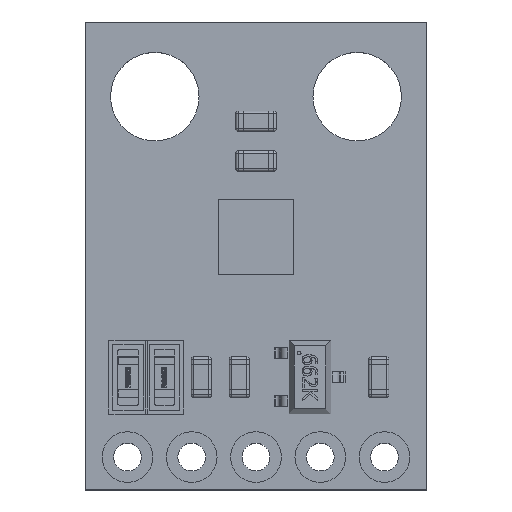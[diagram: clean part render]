
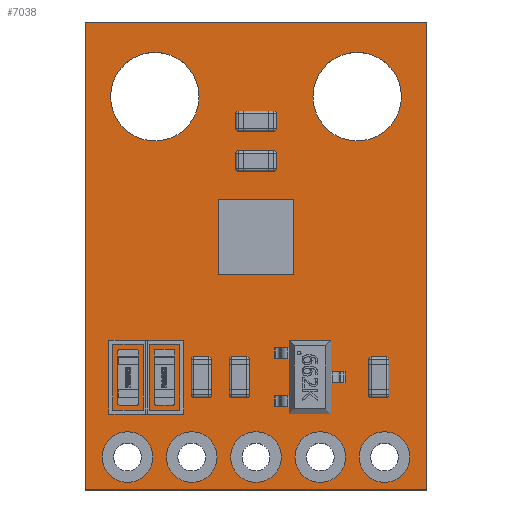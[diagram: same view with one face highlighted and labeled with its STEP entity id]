
A CAD part, top view. The second image highlights one B-rep face of the part: STEP entity #7038.
In plain terms, the highlighted planar face has unit normal (0, 0, 1).
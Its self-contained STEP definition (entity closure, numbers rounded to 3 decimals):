
#184=FACE_BOUND('',#1454,.T.);
#185=FACE_BOUND('',#1455,.T.);
#186=FACE_BOUND('',#1456,.T.);
#187=FACE_BOUND('',#1457,.T.);
#188=FACE_BOUND('',#1458,.T.);
#189=FACE_BOUND('',#1459,.T.);
#190=FACE_BOUND('',#1460,.T.);
#642=PLANE('',#7510);
#1034=FACE_OUTER_BOUND('',#1453,.T.);
#1453=EDGE_LOOP('',(#6150,#6151,#6152,#6153));
#1454=EDGE_LOOP('',(#6154));
#1455=EDGE_LOOP('',(#6155));
#1456=EDGE_LOOP('',(#6156));
#1457=EDGE_LOOP('',(#6157));
#1458=EDGE_LOOP('',(#6158));
#1459=EDGE_LOOP('',(#6159));
#1460=EDGE_LOOP('',(#6160));
#1612=CIRCLE('',#7487,1.);
#1614=CIRCLE('',#7490,1.75);
#1616=CIRCLE('',#7493,1.);
#1618=CIRCLE('',#7496,1.);
#1620=CIRCLE('',#7499,1.75);
#1622=CIRCLE('',#7502,1.);
#1624=CIRCLE('',#7505,1.);
#2184=LINE('',#15129,#2757);
#2188=LINE('',#15137,#2761);
#2191=LINE('',#15143,#2764);
#2194=LINE('',#15148,#2767);
#2757=VECTOR('',#8879,10.);
#2761=VECTOR('',#8885,10.);
#2764=VECTOR('',#8890,10.);
#2767=VECTOR('',#8895,10.);
#3348=VERTEX_POINT('',#15087);
#3350=VERTEX_POINT('',#15093);
#3352=VERTEX_POINT('',#15099);
#3354=VERTEX_POINT('',#15105);
#3356=VERTEX_POINT('',#15111);
#3358=VERTEX_POINT('',#15117);
#3360=VERTEX_POINT('',#15123);
#3361=VERTEX_POINT('',#15127);
#3362=VERTEX_POINT('',#15128);
#3365=VERTEX_POINT('',#15136);
#3367=VERTEX_POINT('',#15142);
#4277=EDGE_CURVE('',#3348,#3348,#1612,.T.);
#4280=EDGE_CURVE('',#3350,#3350,#1614,.T.);
#4283=EDGE_CURVE('',#3352,#3352,#1616,.T.);
#4286=EDGE_CURVE('',#3354,#3354,#1618,.T.);
#4289=EDGE_CURVE('',#3356,#3356,#1620,.T.);
#4292=EDGE_CURVE('',#3358,#3358,#1622,.T.);
#4295=EDGE_CURVE('',#3360,#3360,#1624,.T.);
#4296=EDGE_CURVE('',#3361,#3362,#2184,.T.);
#4300=EDGE_CURVE('',#3365,#3361,#2188,.T.);
#4303=EDGE_CURVE('',#3367,#3365,#2191,.T.);
#4306=EDGE_CURVE('',#3362,#3367,#2194,.T.);
#6150=ORIENTED_EDGE('',*,*,#4306,.F.);
#6151=ORIENTED_EDGE('',*,*,#4296,.F.);
#6152=ORIENTED_EDGE('',*,*,#4300,.F.);
#6153=ORIENTED_EDGE('',*,*,#4303,.F.);
#6154=ORIENTED_EDGE('',*,*,#4295,.T.);
#6155=ORIENTED_EDGE('',*,*,#4292,.T.);
#6156=ORIENTED_EDGE('',*,*,#4289,.T.);
#6157=ORIENTED_EDGE('',*,*,#4286,.T.);
#6158=ORIENTED_EDGE('',*,*,#4283,.T.);
#6159=ORIENTED_EDGE('',*,*,#4280,.T.);
#6160=ORIENTED_EDGE('',*,*,#4277,.T.);
#7038=ADVANCED_FACE('',(#1034,#184,#185,#186,#187,#188,#189,#190),#642,
 .T.);
#7487=AXIS2_PLACEMENT_3D('',#15089,#8833,#8834);
#7490=AXIS2_PLACEMENT_3D('',#15095,#8840,#8841);
#7493=AXIS2_PLACEMENT_3D('',#15101,#8847,#8848);
#7496=AXIS2_PLACEMENT_3D('',#15107,#8854,#8855);
#7499=AXIS2_PLACEMENT_3D('',#15113,#8861,#8862);
#7502=AXIS2_PLACEMENT_3D('',#15119,#8868,#8869);
#7505=AXIS2_PLACEMENT_3D('',#15125,#8875,#8876);
#7510=AXIS2_PLACEMENT_3D('',#15150,#8897,#8898);
#8833=DIRECTION('center_axis',(0.,0.,-1.));
#8834=DIRECTION('ref_axis',(1.,0.,0.));
#8840=DIRECTION('center_axis',(0.,0.,-1.));
#8841=DIRECTION('ref_axis',(1.,0.,0.));
#8847=DIRECTION('center_axis',(0.,0.,-1.));
#8848=DIRECTION('ref_axis',(1.,0.,0.));
#8854=DIRECTION('center_axis',(0.,0.,-1.));
#8855=DIRECTION('ref_axis',(1.,0.,0.));
#8861=DIRECTION('center_axis',(0.,0.,-1.));
#8862=DIRECTION('ref_axis',(1.,0.,0.));
#8868=DIRECTION('center_axis',(0.,0.,-1.));
#8869=DIRECTION('ref_axis',(1.,0.,0.));
#8875=DIRECTION('center_axis',(0.,0.,-1.));
#8876=DIRECTION('ref_axis',(1.,0.,0.));
#8879=DIRECTION('',(0.,-1.,0.));
#8885=DIRECTION('',(1.,0.,0.));
#8890=DIRECTION('',(0.,1.,0.));
#8895=DIRECTION('',(-1.,0.,0.));
#8897=DIRECTION('center_axis',(0.,0.,1.));
#8898=DIRECTION('ref_axis',(1.,0.,0.));
#15087=CARTESIAN_POINT('',(15.29,21.8,0.));
#15089=CARTESIAN_POINT('Origin',(16.29,21.8,0.));
#15093=CARTESIAN_POINT('',(8.,36.05,0.));
#15095=CARTESIAN_POINT('Origin',(9.75,36.05,0.));
#15099=CARTESIAN_POINT('',(10.21,21.8,0.));
#15101=CARTESIAN_POINT('Origin',(11.21,21.8,0.));
#15105=CARTESIAN_POINT('',(7.67,21.8,0.));
#15107=CARTESIAN_POINT('Origin',(8.67,21.8,0.));
#15111=CARTESIAN_POINT('',(16.,36.05,0.));
#15113=CARTESIAN_POINT('Origin',(17.75,36.05,0.));
#15117=CARTESIAN_POINT('',(12.75,21.8,0.));
#15119=CARTESIAN_POINT('Origin',(13.75,21.8,0.));
#15123=CARTESIAN_POINT('',(17.83,21.8,0.));
#15125=CARTESIAN_POINT('Origin',(18.83,21.8,0.));
#15127=CARTESIAN_POINT('',(20.5,39.,0.));
#15128=CARTESIAN_POINT('',(20.5,20.5,0.));
#15129=CARTESIAN_POINT('',(20.5,39.,0.));
#15136=CARTESIAN_POINT('',(7.,39.,0.));
#15137=CARTESIAN_POINT('',(7.,39.,0.));
#15142=CARTESIAN_POINT('',(7.,20.5,0.));
#15143=CARTESIAN_POINT('',(7.,20.5,0.));
#15148=CARTESIAN_POINT('',(20.5,20.5,0.));
#15150=CARTESIAN_POINT('Origin',(13.75,29.75,0.));
